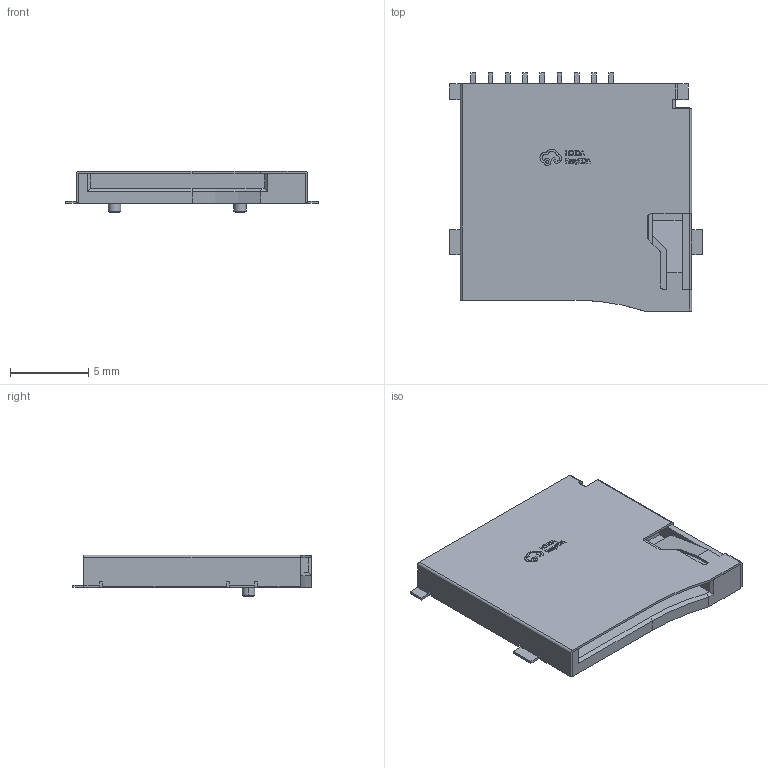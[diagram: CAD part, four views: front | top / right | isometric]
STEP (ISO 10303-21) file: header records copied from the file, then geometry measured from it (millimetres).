
FILE_DESCRIPTION(('FreeCAD Model'),'2;1');
FILE_NAME('Open CASCADE Shape Model','2026-08-04T21:10:39',('Author'),( ''),'Open CASCADE STEP processor 7.8','FreeCAD','Unknown');
FILE_SCHEMA(('AUTOMOTIVE_DESIGN { 1 0 10303 214 1 1 1 1 }'));
Length unit declared in the file: millimetre
Products named in the file (1): TF-SMD_TF-115-BCP9_no_lceda
Bounding box: 16.15 x 15.2 x 2.65 mm (x, y, z)
Volume: 264.9 mm3; surface area: 1124 mm2
Topology: 24 solids, 24 shells, 490 faces, 3810 edges, 5924 vertices
Faces by surface type: plane 355, bspline 112, cylinder 18, cone 5
Entity records: 37472 total; most frequent: CARTESIAN_POINT 14342, DIRECTION 4004, LINE 3000, VECTOR 3000, ORIENTED_EDGE 2540, GEOMETRIC_CURVE_SET 2540, TRIMMED_CURVE 2540, EDGE_CURVE 1270
